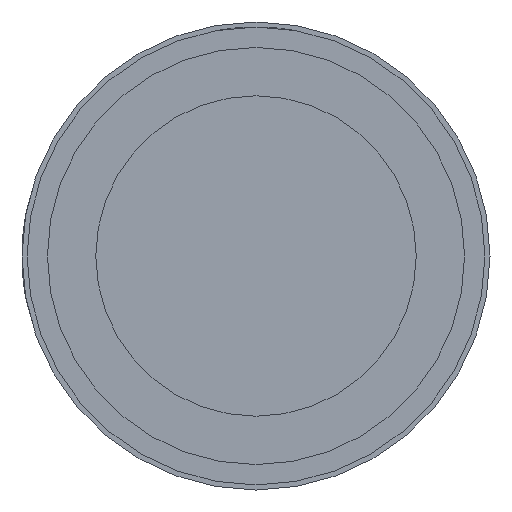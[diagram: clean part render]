
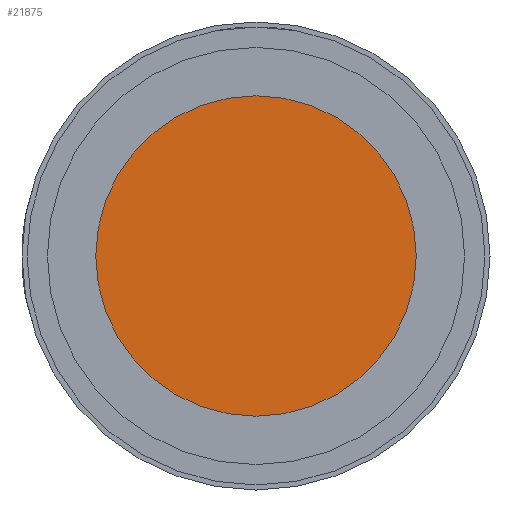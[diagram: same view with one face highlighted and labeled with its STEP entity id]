
A CAD part, left-side view. The second image highlights one B-rep face of the part: STEP entity #21875.
In plain terms, the highlighted planar face has unit normal (-1, 0, 0).
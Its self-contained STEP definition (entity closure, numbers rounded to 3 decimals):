
#10 = CIRCLE ( 'NONE', #16114, 31.5 ) ;
#105 = VERTEX_POINT ( 'NONE', #10970 ) ;
#572 = EDGE_LOOP ( 'NONE', ( #1438, #16126 ) ) ;
#1434 = FACE_OUTER_BOUND ( 'NONE', #572, .T. ) ;
#1438 = ORIENTED_EDGE ( 'NONE', *, *, #20676, .F. ) ;
#1755 = CIRCLE ( 'NONE', #2858, 31.5 ) ;
#2280 = DIRECTION ( 'NONE',  ( 1., 0., 0. ) ) ;
#2710 = EDGE_CURVE ( 'NONE', #7565, #105, #1755, .T. ) ;
#2858 = AXIS2_PLACEMENT_3D ( 'NONE', #4349, #2280, #11367 ) ;
#3985 = AXIS2_PLACEMENT_3D ( 'NONE', #17769, #11933, #20993 ) ;
#4349 = CARTESIAN_POINT ( 'NONE',  ( -312., 0., 0. ) ) ;
#5660 = CARTESIAN_POINT ( 'NONE',  ( -312., 0., 0. ) ) ;
#7565 = VERTEX_POINT ( 'NONE', #13304 ) ;
#10970 = CARTESIAN_POINT ( 'NONE',  ( -312., 0., -31.5 ) ) ;
#11367 = DIRECTION ( 'NONE',  ( 0., 0., -1. ) ) ;
#11933 = DIRECTION ( 'NONE',  ( 1., 0., 0. ) ) ;
#13304 = CARTESIAN_POINT ( 'NONE',  ( -312., 0., 31.5 ) ) ;
#14197 = DIRECTION ( 'NONE',  ( 0., 0., -1. ) ) ;
#16114 = AXIS2_PLACEMENT_3D ( 'NONE', #5660, #19502, #14197 ) ;
#16126 = ORIENTED_EDGE ( 'NONE', *, *, #2710, .F. ) ;
#17769 = CARTESIAN_POINT ( 'NONE',  ( -312., 0., 0. ) ) ;
#19502 = DIRECTION ( 'NONE',  ( 1., 0., 0. ) ) ;
#20676 = EDGE_CURVE ( 'NONE', #105, #7565, #10, .T. ) ;
#20993 = DIRECTION ( 'NONE',  ( 0., 0., -1. ) ) ;
#21333 = PLANE ( 'NONE',  #3985 ) ;
#21875 = ADVANCED_FACE ( 'NONE', ( #1434 ), #21333, .F. ) ;
